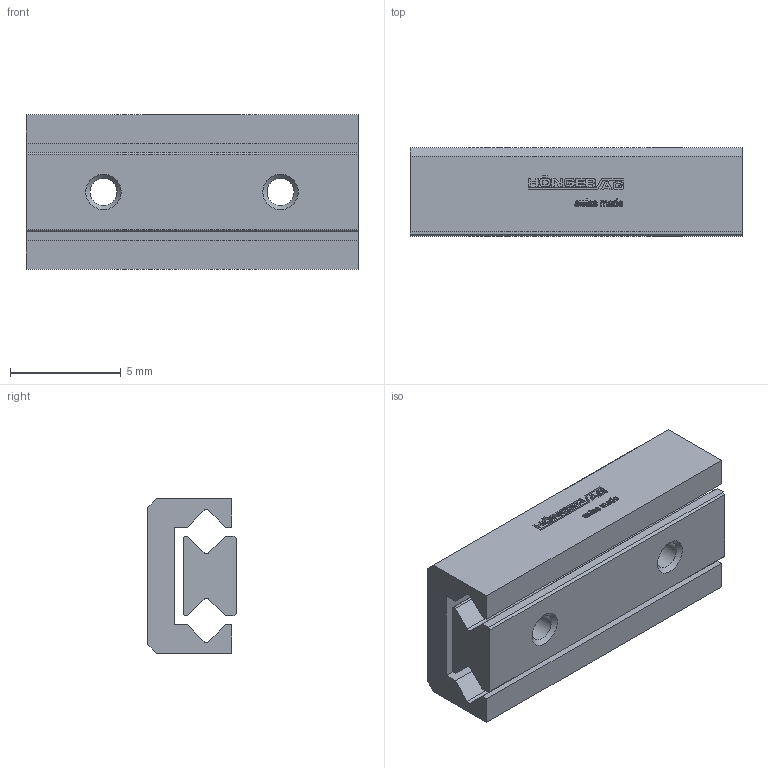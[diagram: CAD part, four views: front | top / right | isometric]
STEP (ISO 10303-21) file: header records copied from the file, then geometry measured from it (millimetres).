
FILE_DESCRIPTION(/* description */ ('STEP AP214'),/* implementation_level */ '2;1');
FILE_NAME(/* name */ 'MSR 4-15.12(0)',/* time_stamp */ '2025-04-16T17:15:59+02:00',/* author */ ('License CC BY-ND 4.0'),/* organization */ ('CADENAS'),/* preprocessor_version */ 'ST-DEVELOPER v19.3',/* originating_system */ 'PARTsolutions',/* authorisation */ ' ');
FILE_SCHEMA (('AUTOMOTIVE_DESIGN {1 0 10303 214 3 1 1}'));
Length unit declared in the file: millimetre
Products named in the file (3): MSR 4-15.12(0); MSR 4-15.12_1; MSR 4-15.12_2
Assembly tree (2 placements, depth 2):
  MSR 4-15.12(0)
    MSR 4-15.12_1
    MSR 4-15.12_2
Bounding box: 15 x 4 x 7 mm (x, y, z)
Volume: 301 mm3; surface area: 677.1 mm2
Topology: 2 solids, 2 shells, 513 faces, 1442 edges, 960 vertices
Faces by surface type: cylinder 300, plane 207, cone 6
Full cylindrical faces by diameter (mm): 1.221 x4
Entity records: 16813 total; most frequent: DIRECTION 3068, CARTESIAN_POINT 2904, ORIENTED_EDGE 2860, EDGE_CURVE 1430, AXIS2_PLACEMENT_3D 1122, VERTEX_POINT 958, LINE 824, VECTOR 824
